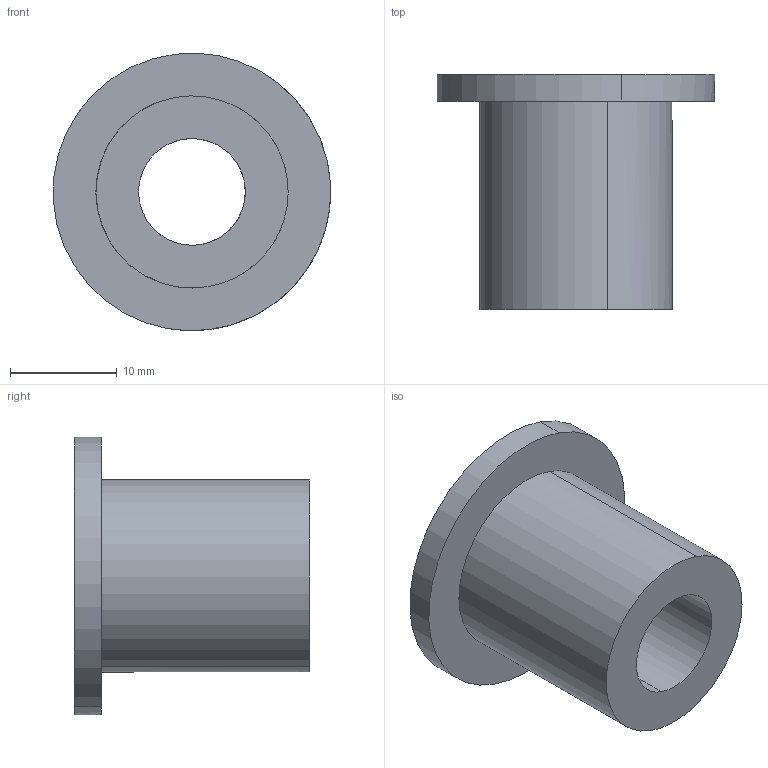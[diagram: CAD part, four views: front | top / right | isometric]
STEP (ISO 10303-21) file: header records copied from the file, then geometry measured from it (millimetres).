
FILE_DESCRIPTION(('CATIA V5 STEP Exchange'),'2;1');
FILE_NAME('C:\Users\nobody\Desktop\SQX3000-6805468_C.stp','2024-01-18T01:05:37+00:00',('none'),('none'),'CATIA Version 5 Release 20 GA (IN-10)','CATIA V5 STEP AP203 Edition 2','none');
FILE_SCHEMA(('AP203_CONFIGURATION_CONTROLLED_3D_DESIGN_OF_MECHANICAL_PARTS_AND_ASSEMBLIES_MIM_LF { 1 0 10303 403 2 1 2}'));
Length unit declared in the file: millimetre
Products named in the file (1): SQX3000-6805468
Bounding box: 25.98 x 22.02 x 25.98 mm (x, y, z)
Volume: 4561.6 mm3; surface area: 2902.8 mm2
Topology: 1 solids, 1 shells, 9 faces, 18 edges, 12 vertices
Faces by surface type: cylinder 6, plane 3
Entity records: 322 total; most frequent: CARTESIAN_POINT 110, ORIENTED_EDGE 36, DIRECTION 31, EDGE_CURVE 18, AXIS2_PLACEMENT_3D 17, VERTEX_POINT 12, EDGE_LOOP 12, ADVANCED_FACE 9
